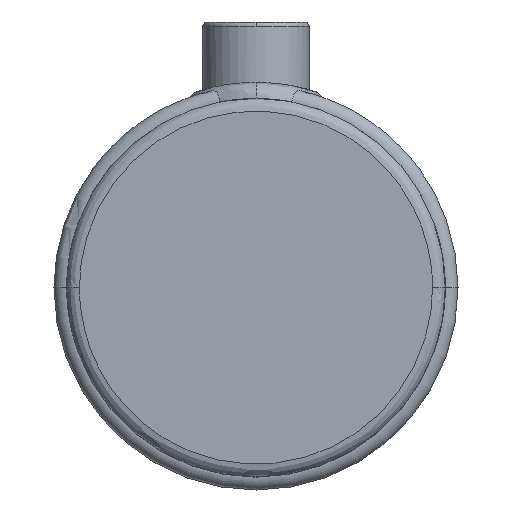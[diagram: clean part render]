
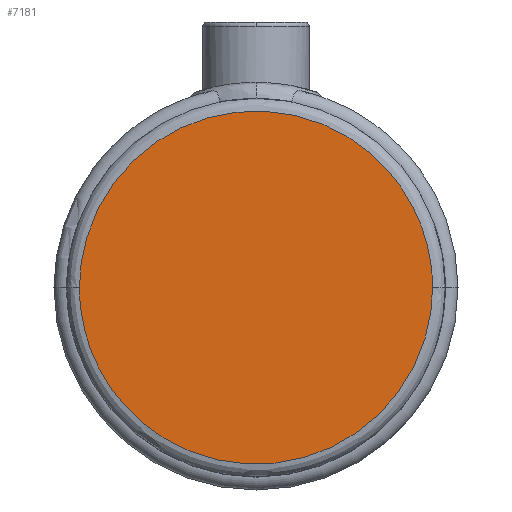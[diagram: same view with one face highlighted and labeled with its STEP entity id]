
A CAD part, top view. The second image highlights one B-rep face of the part: STEP entity #7181.
In plain terms, the highlighted planar face has unit normal (0, 0, 1).
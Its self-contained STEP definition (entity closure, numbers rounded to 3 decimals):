
#228 = CARTESIAN_POINT ( 'NONE',  ( -41.45, 0., 50. ) ) ;
#372 = DIRECTION ( 'NONE',  ( 0., -1., 0. ) ) ;
#1874 = CARTESIAN_POINT ( 'NONE',  ( 41.45, 0., 50. ) ) ;
#2082 = CARTESIAN_POINT ( 'NONE',  ( -41.45, -82.9, 50. ) ) ;
#3764 = ORIENTED_EDGE ( 'NONE', *, *, #8200, .F. ) ;
#4306 = CARTESIAN_POINT ( 'NONE',  ( 41.45, 82.9, 50. ) ) ;
#5235 = DIRECTION ( 'NONE',  ( 0., 0., 1. ) ) ;
#5298 = CARTESIAN_POINT ( 'NONE',  ( 41.45, -82.9, 50. ) ) ;
#5669 =( BOUNDED_CURVE ( )  B_SPLINE_CURVE ( 3, ( #10141, #5298, #2082, #7738 ),
 .UNSPECIFIED., .F., .F. ) 
 B_SPLINE_CURVE_WITH_KNOTS ( ( 4, 4 ),
 ( 0.25, 0.75 ),
 .UNSPECIFIED. ) 
 CURVE ( )  GEOMETRIC_REPRESENTATION_ITEM ( )  RATIONAL_B_SPLINE_CURVE ( ( 1., 0.333, 0.333, 1. ) ) 
 REPRESENTATION_ITEM ( '' )  );
#5672 = ORIENTED_EDGE ( 'NONE', *, *, #7317, .F. ) ;
#5870 = AXIS2_PLACEMENT_3D ( 'NONE', #10074, #5235, #372 ) ;
#6792 =( BOUNDED_CURVE ( )  B_SPLINE_CURVE ( 3, ( #228, #7535, #4306, #9970 ),
 .UNSPECIFIED., .F., .F. ) 
 B_SPLINE_CURVE_WITH_KNOTS ( ( 4, 4 ),
 ( 0.75, 1.25 ),
 .UNSPECIFIED. ) 
 CURVE ( )  GEOMETRIC_REPRESENTATION_ITEM ( )  RATIONAL_B_SPLINE_CURVE ( ( 1., 0.333, 0.333, 1. ) ) 
 REPRESENTATION_ITEM ( '' )  );
#6825 = VERTEX_POINT ( 'NONE', #8249 ) ;
#7093 = FACE_OUTER_BOUND ( 'NONE', #9592, .T. ) ;
#7181 = ADVANCED_FACE ( 'NONE', ( #7093 ), #7640, .T. ) ;
#7317 = EDGE_CURVE ( 'NONE', #8210, #6825, #5669, .T. ) ;
#7535 = CARTESIAN_POINT ( 'NONE',  ( -41.45, 82.9, 50. ) ) ;
#7640 = PLANE ( 'NONE',  #5870 ) ;
#7738 = CARTESIAN_POINT ( 'NONE',  ( -41.45, 0., 50. ) ) ;
#8200 = EDGE_CURVE ( 'NONE', #6825, #8210, #6792, .T. ) ;
#8210 = VERTEX_POINT ( 'NONE', #1874 ) ;
#8249 = CARTESIAN_POINT ( 'NONE',  ( -41.45, 0., 50. ) ) ;
#9592 = EDGE_LOOP ( 'NONE', ( #5672, #3764 ) ) ;
#9970 = CARTESIAN_POINT ( 'NONE',  ( 41.45, 0., 50. ) ) ;
#10074 = CARTESIAN_POINT ( 'NONE',  ( 0., 22.225, 50. ) ) ;
#10141 = CARTESIAN_POINT ( 'NONE',  ( 41.45, 0., 50. ) ) ;
